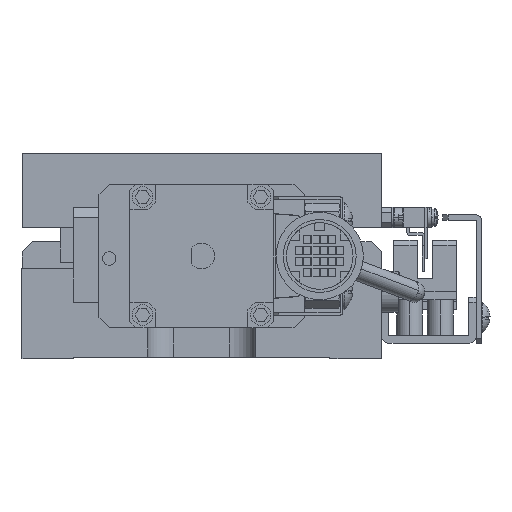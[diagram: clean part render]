
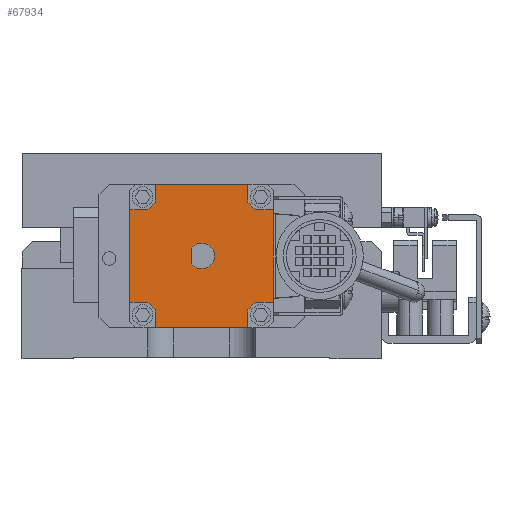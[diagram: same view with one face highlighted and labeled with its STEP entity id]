
A CAD part, left-side view. The second image highlights one B-rep face of the part: STEP entity #67934.
In plain terms, the highlighted planar face has unit normal (-1, 0, 0).
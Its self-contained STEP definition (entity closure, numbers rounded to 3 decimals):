
#20 = CARTESIAN_POINT ( 'NONE',  ( -143.719, 203.827, 44.586 ) ) ;
#84 = DIRECTION ( 'NONE',  ( 0., 0.667, -0.745 ) ) ;
#117 = CARTESIAN_POINT ( 'NONE',  ( -143.719, 217.991, 57.25 ) ) ;
#1335 = VECTOR ( 'NONE', #58912, 1000. ) ;
#1527 = AXIS2_PLACEMENT_3D ( 'NONE', #59837, #38151, #7152 ) ;
#1740 = ORIENTED_EDGE ( 'NONE', *, *, #49363, .T. ) ;
#2454 = LINE ( 'NONE', #27732, #55357 ) ;
#2566 = CARTESIAN_POINT ( 'NONE',  ( -143.719, 216.491, 76.75 ) ) ;
#2638 = VERTEX_POINT ( 'NONE', #61283 ) ;
#3897 = CIRCLE ( 'NONE', #45144, 19. ) ;
#3905 = EDGE_CURVE ( 'NONE', #11822, #55165, #46343, .T. ) ;
#4014 = DIRECTION ( 'NONE',  ( 0., 0., -1. ) ) ;
#4384 = CARTESIAN_POINT ( 'NONE',  ( -143.719, 235.991, 53.75 ) ) ;
#4464 = EDGE_CURVE ( 'NONE', #25009, #40514, #9028, .T. ) ;
#4953 = DIRECTION ( 'NONE',  ( 1., 0., 0. ) ) ;
#5184 = LINE ( 'NONE', #5324, #20009 ) ;
#5324 = CARTESIAN_POINT ( 'NONE',  ( -143.719, 217.991, 78.25 ) ) ;
#5791 = CARTESIAN_POINT ( 'NONE',  ( -143.719, 235.991, 78.25 ) ) ;
#5879 = LINE ( 'NONE', #13738, #58781 ) ;
#6415 = VECTOR ( 'NONE', #41756, 1000. ) ;
#6698 = CARTESIAN_POINT ( 'NONE',  ( -143.719, 235.991, 57.25 ) ) ;
#6803 = EDGE_CURVE ( 'NONE', #54526, #22279, #18766, .T. ) ;
#7152 = DIRECTION ( 'NONE',  ( 0., -1., 0. ) ) ;
#7497 = CARTESIAN_POINT ( 'NONE',  ( -143.719, 235.991, 81.75 ) ) ;
#7528 = VECTOR ( 'NONE', #42941, 1000. ) ;
#7636 = LINE ( 'NONE', #45941, #10903 ) ;
#7699 = VERTEX_POINT ( 'NONE', #19914 ) ;
#7906 = CIRCLE ( 'NONE', #47030, 19. ) ;
#9028 = CIRCLE ( 'NONE', #18849, 19. ) ;
#9106 = CARTESIAN_POINT ( 'NONE',  ( -143.719, 250.155, 44.586 ) ) ;
#9463 = VERTEX_POINT ( 'NONE', #19061 ) ;
#9847 = FACE_OUTER_BOUND ( 'NONE', #20013, .T. ) ;
#10218 = CARTESIAN_POINT ( 'NONE',  ( -143.719, 203.827, 90.914 ) ) ;
#10762 = VERTEX_POINT ( 'NONE', #5791 ) ;
#10903 = VECTOR ( 'NONE', #41076, 1000. ) ;
#10955 = VERTEX_POINT ( 'NONE', #55445 ) ;
#11330 = VECTOR ( 'NONE', #67349, 1000. ) ;
#11822 = VERTEX_POINT ( 'NONE', #42582 ) ;
#12502 = EDGE_CURVE ( 'NONE', #7699, #54526, #22978, .T. ) ;
#12956 = VERTEX_POINT ( 'NONE', #117 ) ;
#13011 = LINE ( 'NONE', #46095, #11330 ) ;
#13361 = VERTEX_POINT ( 'NONE', #4384 ) ;
#13738 = CARTESIAN_POINT ( 'NONE',  ( -143.719, 217.991, 53.75 ) ) ;
#14283 = VECTOR ( 'NONE', #39001, 1000. ) ;
#14798 = ORIENTED_EDGE ( 'NONE', *, *, #4464, .T. ) ;
#15887 = DIRECTION ( 'NONE',  ( 0., -0.745, -0.667 ) ) ;
#17075 = LINE ( 'NONE', #23886, #6415 ) ;
#17591 = LINE ( 'NONE', #59987, #14283 ) ;
#18541 = LINE ( 'NONE', #25090, #45142 ) ;
#18766 = CIRCLE ( 'NONE', #28316, 19. ) ;
#18849 = AXIS2_PLACEMENT_3D ( 'NONE', #9106, #30335, #24306 ) ;
#19061 = CARTESIAN_POINT ( 'NONE',  ( -143.719, 237.491, 76.75 ) ) ;
#19715 = DIRECTION ( 'NONE',  ( 0., 0., 1. ) ) ;
#19914 = CARTESIAN_POINT ( 'NONE',  ( -143.719, 212.991, 76.75 ) ) ;
#20009 = VECTOR ( 'NONE', #42330, 1000. ) ;
#20013 = EDGE_LOOP ( 'NONE', ( #1740, #14798, #64333, #34577, #31408, #38244, #20607, #58271, #54599, #60276, #24737, #65445, #60901, #52908, #35514, #28195 ) ) ;
#20529 = PLANE ( 'NONE',  #59299 ) ;
#20607 = ORIENTED_EDGE ( 'NONE', *, *, #30053, .T. ) ;
#21769 = VERTEX_POINT ( 'NONE', #42320 ) ;
#22279 = VERTEX_POINT ( 'NONE', #47112 ) ;
#22978 = LINE ( 'NONE', #34374, #42911 ) ;
#23041 = DIRECTION ( 'NONE',  ( 0., 0., -1. ) ) ;
#23838 = ORIENTED_EDGE ( 'NONE', *, *, #42408, .F. ) ;
#23886 = CARTESIAN_POINT ( 'NONE',  ( -143.719, 237.491, 76.75 ) ) ;
#24306 = DIRECTION ( 'NONE',  ( 0., -0.667, 0.745 ) ) ;
#24737 = ORIENTED_EDGE ( 'NONE', *, *, #37014, .T. ) ;
#24758 = CARTESIAN_POINT ( 'NONE',  ( -143.719, 237.491, 58.75 ) ) ;
#25009 = VERTEX_POINT ( 'NONE', #24758 ) ;
#25090 = CARTESIAN_POINT ( 'NONE',  ( -143.719, 216.491, 58.75 ) ) ;
#25502 = VERTEX_POINT ( 'NONE', #57957 ) ;
#25871 = EDGE_CURVE ( 'NONE', #7699, #39213, #7636, .T. ) ;
#26458 = DIRECTION ( 'NONE',  ( 0., -1., 0. ) ) ;
#27732 = CARTESIAN_POINT ( 'NONE',  ( -143.719, 217.991, 53.75 ) ) ;
#28195 = ORIENTED_EDGE ( 'NONE', *, *, #3905, .F. ) ;
#28316 = AXIS2_PLACEMENT_3D ( 'NONE', #10218, #4953, #84 ) ;
#29743 = EDGE_CURVE ( 'NONE', #63516, #25502, #52560, .T. ) ;
#30053 = EDGE_CURVE ( 'NONE', #49761, #39213, #18541, .T. ) ;
#30335 = DIRECTION ( 'NONE',  ( 1., 0., 0. ) ) ;
#31209 = DIRECTION ( 'NONE',  ( 1., 0., 0. ) ) ;
#31408 = ORIENTED_EDGE ( 'NONE', *, *, #55129, .T. ) ;
#32795 = CARTESIAN_POINT ( 'NONE',  ( -143.719, 235.991, 81.75 ) ) ;
#34374 = CARTESIAN_POINT ( 'NONE',  ( -143.719, 212.991, 76.75 ) ) ;
#34577 = ORIENTED_EDGE ( 'NONE', *, *, #64994, .F. ) ;
#35060 = CARTESIAN_POINT ( 'NONE',  ( -143.719, 240.991, 76.75 ) ) ;
#35304 = CARTESIAN_POINT ( 'NONE',  ( -143.719, 240.991, 58.75 ) ) ;
#35514 = ORIENTED_EDGE ( 'NONE', *, *, #51585, .T. ) ;
#35861 = EDGE_CURVE ( 'NONE', #40514, #13361, #60806, .T. ) ;
#37014 = EDGE_CURVE ( 'NONE', #22279, #25502, #5184, .T. ) ;
#37059 = EDGE_CURVE ( 'NONE', #21769, #10955, #47374, .T. ) ;
#38151 = DIRECTION ( 'NONE',  ( 1., 0., 0. ) ) ;
#38244 = ORIENTED_EDGE ( 'NONE', *, *, #59759, .T. ) ;
#38438 = DIRECTION ( 'NONE',  ( 0., 1., 0. ) ) ;
#39001 = DIRECTION ( 'NONE',  ( 0., 0., -1. ) ) ;
#39213 = VERTEX_POINT ( 'NONE', #53030 ) ;
#40514 = VERTEX_POINT ( 'NONE', #48199 ) ;
#41076 = DIRECTION ( 'NONE',  ( 0., 0., -1. ) ) ;
#41679 = CARTESIAN_POINT ( 'NONE',  ( -143.719, 197.292, 97.448 ) ) ;
#41756 = DIRECTION ( 'NONE',  ( 0., 1., 0. ) ) ;
#42016 = CARTESIAN_POINT ( 'NONE',  ( -143.719, 240.991, 58.75 ) ) ;
#42314 = LINE ( 'NONE', #42016, #7528 ) ;
#42320 = CARTESIAN_POINT ( 'NONE',  ( -143.719, 228.991, 69.25 ) ) ;
#42330 = DIRECTION ( 'NONE',  ( 0., 0., 1. ) ) ;
#42408 = EDGE_CURVE ( 'NONE', #21769, #10955, #17591, .T. ) ;
#42582 = CARTESIAN_POINT ( 'NONE',  ( -143.719, 240.991, 58.75 ) ) ;
#42911 = VECTOR ( 'NONE', #44596, 1000. ) ;
#42941 = DIRECTION ( 'NONE',  ( 0., -1., 0. ) ) ;
#43758 = CARTESIAN_POINT ( 'NONE',  ( -143.719, 216.491, 58.75 ) ) ;
#44113 = ORIENTED_EDGE ( 'NONE', *, *, #37059, .T. ) ;
#44596 = DIRECTION ( 'NONE',  ( 0., 1., 0. ) ) ;
#45142 = VECTOR ( 'NONE', #26458, 1000. ) ;
#45144 = AXIS2_PLACEMENT_3D ( 'NONE', #20, #52254, #47432 ) ;
#45941 = CARTESIAN_POINT ( 'NONE',  ( -143.719, 212.991, 76.75 ) ) ;
#46095 = CARTESIAN_POINT ( 'NONE',  ( -143.719, 235.991, 81.75 ) ) ;
#46112 = EDGE_CURVE ( 'NONE', #10762, #9463, #7906, .T. ) ;
#46343 = LINE ( 'NONE', #35304, #58699 ) ;
#47030 = AXIS2_PLACEMENT_3D ( 'NONE', #58493, #64279, #15887 ) ;
#47112 = CARTESIAN_POINT ( 'NONE',  ( -143.719, 217.991, 78.25 ) ) ;
#47374 = CIRCLE ( 'NONE', #1527, 2.5 ) ;
#47432 = DIRECTION ( 'NONE',  ( 0., 0.745, 0.667 ) ) ;
#48199 = CARTESIAN_POINT ( 'NONE',  ( -143.719, 235.991, 57.25 ) ) ;
#49363 = EDGE_CURVE ( 'NONE', #11822, #25009, #42314, .T. ) ;
#49761 = VERTEX_POINT ( 'NONE', #43758 ) ;
#50098 = VECTOR ( 'NONE', #23041, 1000. ) ;
#51585 = EDGE_CURVE ( 'NONE', #9463, #55165, #17075, .T. ) ;
#52060 = EDGE_CURVE ( 'NONE', #63516, #10762, #13011, .T. ) ;
#52254 = DIRECTION ( 'NONE',  ( 1., 0., 0. ) ) ;
#52560 = LINE ( 'NONE', #32795, #1335 ) ;
#52908 = ORIENTED_EDGE ( 'NONE', *, *, #46112, .T. ) ;
#53030 = CARTESIAN_POINT ( 'NONE',  ( -143.719, 212.991, 58.75 ) ) ;
#54526 = VERTEX_POINT ( 'NONE', #2566 ) ;
#54599 = ORIENTED_EDGE ( 'NONE', *, *, #12502, .T. ) ;
#55129 = EDGE_CURVE ( 'NONE', #2638, #12956, #5879, .T. ) ;
#55165 = VERTEX_POINT ( 'NONE', #35060 ) ;
#55357 = VECTOR ( 'NONE', #38438, 1000. ) ;
#55445 = CARTESIAN_POINT ( 'NONE',  ( -143.719, 228.991, 66.25 ) ) ;
#56231 = EDGE_LOOP ( 'NONE', ( #23838, #44113 ) ) ;
#57957 = CARTESIAN_POINT ( 'NONE',  ( -143.719, 217.991, 81.75 ) ) ;
#58271 = ORIENTED_EDGE ( 'NONE', *, *, #25871, .F. ) ;
#58493 = CARTESIAN_POINT ( 'NONE',  ( -143.719, 250.155, 90.914 ) ) ;
#58699 = VECTOR ( 'NONE', #19715, 1000. ) ;
#58781 = VECTOR ( 'NONE', #61619, 1000. ) ;
#58912 = DIRECTION ( 'NONE',  ( 0., -1., 0. ) ) ;
#59299 = AXIS2_PLACEMENT_3D ( 'NONE', #41679, #31209, #4014 ) ;
#59759 = EDGE_CURVE ( 'NONE', #12956, #49761, #3897, .T. ) ;
#59837 = CARTESIAN_POINT ( 'NONE',  ( -143.719, 226.991, 67.75 ) ) ;
#59987 = CARTESIAN_POINT ( 'NONE',  ( -143.719, 228.991, 69.25 ) ) ;
#60276 = ORIENTED_EDGE ( 'NONE', *, *, #6803, .T. ) ;
#60806 = LINE ( 'NONE', #6698, #50098 ) ;
#60901 = ORIENTED_EDGE ( 'NONE', *, *, #52060, .T. ) ;
#61132 = FACE_BOUND ( 'NONE', #56231, .T. ) ;
#61283 = CARTESIAN_POINT ( 'NONE',  ( -143.719, 217.991, 53.75 ) ) ;
#61619 = DIRECTION ( 'NONE',  ( 0., 0., 1. ) ) ;
#63516 = VERTEX_POINT ( 'NONE', #7497 ) ;
#64279 = DIRECTION ( 'NONE',  ( 1., 0., 0. ) ) ;
#64333 = ORIENTED_EDGE ( 'NONE', *, *, #35861, .T. ) ;
#64994 = EDGE_CURVE ( 'NONE', #2638, #13361, #2454, .T. ) ;
#65445 = ORIENTED_EDGE ( 'NONE', *, *, #29743, .F. ) ;
#67349 = DIRECTION ( 'NONE',  ( 0., 0., -1. ) ) ;
#67934 = ADVANCED_FACE ( 'NONE', ( #9847, #61132 ), #20529, .F. ) ;
